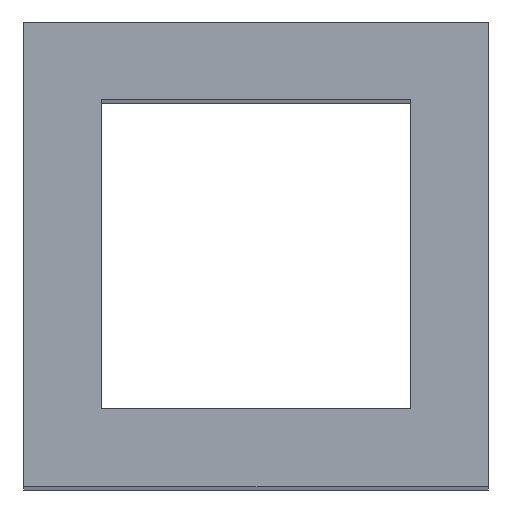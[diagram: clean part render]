
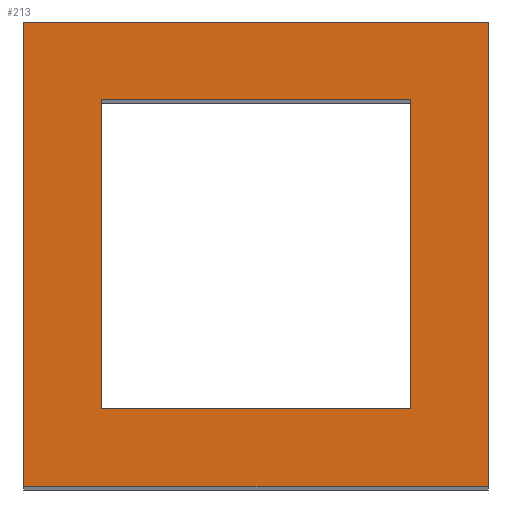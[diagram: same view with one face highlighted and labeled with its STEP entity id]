
A CAD part, top view. The second image highlights one B-rep face of the part: STEP entity #213.
In plain terms, the highlighted planar face has unit normal (0, 0, 1).
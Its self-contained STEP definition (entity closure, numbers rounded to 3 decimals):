
#24 = VERTEX_POINT('',#25);
#25 = CARTESIAN_POINT('',(-1.5,265.,89.));
#32 = PLANE('',#33);
#33 = AXIS2_PLACEMENT_3D('',#34,#35,#36);
#34 = CARTESIAN_POINT('',(-1.5,265.,4.));
#35 = DIRECTION('',(1.,0.,-0.));
#36 = DIRECTION('',(0.,0.,1.));
#44 = PLANE('',#45);
#45 = AXIS2_PLACEMENT_3D('',#46,#47,#48);
#46 = CARTESIAN_POINT('',(-1.5,265.,4.));
#47 = DIRECTION('',(-0.,1.,0.));
#48 = DIRECTION('',(0.,0.,1.));
#85 = VERTEX_POINT('',#86);
#86 = CARTESIAN_POINT('',(-1.5,283.,89.));
#100 = PLANE('',#101);
#101 = AXIS2_PLACEMENT_3D('',#102,#103,#104);
#102 = CARTESIAN_POINT('',(-1.5,283.,4.));
#103 = DIRECTION('',(-0.,1.,0.));
#104 = DIRECTION('',(0.,0.,1.));
#112 = EDGE_CURVE('',#24,#85,#113,.T.);
#113 = SURFACE_CURVE('',#114,(#118,#125),.PCURVE_S1.);
#114 = LINE('',#115,#116);
#115 = CARTESIAN_POINT('',(-1.5,265.,89.));
#116 = VECTOR('',#117,1.);
#117 = DIRECTION('',(-0.,1.,0.));
#118 = PCURVE('',#32,#119);
#119 = DEFINITIONAL_REPRESENTATION('',(#120),#124);
#120 = LINE('',#121,#122);
#121 = CARTESIAN_POINT('',(85.,0.));
#122 = VECTOR('',#123,1.);
#123 = DIRECTION('',(0.,-1.));
#124 = ( GEOMETRIC_REPRESENTATION_CONTEXT(2) 
PARAMETRIC_REPRESENTATION_CONTEXT() REPRESENTATION_CONTEXT('2D SPACE',''
  ) );
#125 = PCURVE('',#126,#131);
#126 = PLANE('',#127);
#127 = AXIS2_PLACEMENT_3D('',#128,#129,#130);
#128 = CARTESIAN_POINT('',(-1.5,265.,89.));
#129 = DIRECTION('',(0.,0.,1.));
#130 = DIRECTION('',(1.,0.,-0.));
#131 = DEFINITIONAL_REPRESENTATION('',(#132),#136);
#132 = LINE('',#133,#134);
#133 = CARTESIAN_POINT('',(0.,0.));
#134 = VECTOR('',#135,1.);
#135 = DIRECTION('',(0.,1.));
#136 = ( GEOMETRIC_REPRESENTATION_CONTEXT(2) 
PARAMETRIC_REPRESENTATION_CONTEXT() REPRESENTATION_CONTEXT('2D SPACE',''
  ) );
#165 = EDGE_CURVE('',#24,#166,#168,.T.);
#166 = VERTEX_POINT('',#167);
#167 = CARTESIAN_POINT('',(16.5,265.,89.));
#168 = SURFACE_CURVE('',#169,(#173,#180),.PCURVE_S1.);
#169 = LINE('',#170,#171);
#170 = CARTESIAN_POINT('',(-1.5,265.,89.));
#171 = VECTOR('',#172,1.);
#172 = DIRECTION('',(1.,0.,-0.));
#173 = PCURVE('',#44,#174);
#174 = DEFINITIONAL_REPRESENTATION('',(#175),#179);
#175 = LINE('',#176,#177);
#176 = CARTESIAN_POINT('',(85.,0.));
#177 = VECTOR('',#178,1.);
#178 = DIRECTION('',(0.,1.));
#179 = ( GEOMETRIC_REPRESENTATION_CONTEXT(2) 
PARAMETRIC_REPRESENTATION_CONTEXT() REPRESENTATION_CONTEXT('2D SPACE',''
  ) );
#180 = PCURVE('',#126,#181);
#181 = DEFINITIONAL_REPRESENTATION('',(#182),#186);
#182 = LINE('',#183,#184);
#183 = CARTESIAN_POINT('',(0.,0.));
#184 = VECTOR('',#185,1.);
#185 = DIRECTION('',(1.,0.));
#186 = ( GEOMETRIC_REPRESENTATION_CONTEXT(2) 
PARAMETRIC_REPRESENTATION_CONTEXT() REPRESENTATION_CONTEXT('2D SPACE',''
  ) );
#202 = PLANE('',#203);
#203 = AXIS2_PLACEMENT_3D('',#204,#205,#206);
#204 = CARTESIAN_POINT('',(16.5,265.,4.));
#205 = DIRECTION('',(1.,0.,-0.));
#206 = DIRECTION('',(0.,0.,1.));
#213 = ADVANCED_FACE('',(#214,#262),#126,.T.);
#214 = FACE_BOUND('',#215,.T.);
#215 = EDGE_LOOP('',(#216,#217,#218,#241));
#216 = ORIENTED_EDGE('',*,*,#112,.F.);
#217 = ORIENTED_EDGE('',*,*,#165,.T.);
#218 = ORIENTED_EDGE('',*,*,#219,.T.);
#219 = EDGE_CURVE('',#166,#220,#222,.T.);
#220 = VERTEX_POINT('',#221);
#221 = CARTESIAN_POINT('',(16.5,283.,89.));
#222 = SURFACE_CURVE('',#223,(#227,#234),.PCURVE_S1.);
#223 = LINE('',#224,#225);
#224 = CARTESIAN_POINT('',(16.5,265.,89.));
#225 = VECTOR('',#226,1.);
#226 = DIRECTION('',(-0.,1.,0.));
#227 = PCURVE('',#126,#228);
#228 = DEFINITIONAL_REPRESENTATION('',(#229),#233);
#229 = LINE('',#230,#231);
#230 = CARTESIAN_POINT('',(18.,0.));
#231 = VECTOR('',#232,1.);
#232 = DIRECTION('',(0.,1.));
#233 = ( GEOMETRIC_REPRESENTATION_CONTEXT(2) 
PARAMETRIC_REPRESENTATION_CONTEXT() REPRESENTATION_CONTEXT('2D SPACE',''
  ) );
#234 = PCURVE('',#202,#235);
#235 = DEFINITIONAL_REPRESENTATION('',(#236),#240);
#236 = LINE('',#237,#238);
#237 = CARTESIAN_POINT('',(85.,0.));
#238 = VECTOR('',#239,1.);
#239 = DIRECTION('',(0.,-1.));
#240 = ( GEOMETRIC_REPRESENTATION_CONTEXT(2) 
PARAMETRIC_REPRESENTATION_CONTEXT() REPRESENTATION_CONTEXT('2D SPACE',''
  ) );
#241 = ORIENTED_EDGE('',*,*,#242,.F.);
#242 = EDGE_CURVE('',#85,#220,#243,.T.);
#243 = SURFACE_CURVE('',#244,(#248,#255),.PCURVE_S1.);
#244 = LINE('',#245,#246);
#245 = CARTESIAN_POINT('',(-1.5,283.,89.));
#246 = VECTOR('',#247,1.);
#247 = DIRECTION('',(1.,0.,-0.));
#248 = PCURVE('',#126,#249);
#249 = DEFINITIONAL_REPRESENTATION('',(#250),#254);
#250 = LINE('',#251,#252);
#251 = CARTESIAN_POINT('',(0.,18.));
#252 = VECTOR('',#253,1.);
#253 = DIRECTION('',(1.,0.));
#254 = ( GEOMETRIC_REPRESENTATION_CONTEXT(2) 
PARAMETRIC_REPRESENTATION_CONTEXT() REPRESENTATION_CONTEXT('2D SPACE',''
  ) );
#255 = PCURVE('',#100,#256);
#256 = DEFINITIONAL_REPRESENTATION('',(#257),#261);
#257 = LINE('',#258,#259);
#258 = CARTESIAN_POINT('',(85.,0.));
#259 = VECTOR('',#260,1.);
#260 = DIRECTION('',(0.,1.));
#261 = ( GEOMETRIC_REPRESENTATION_CONTEXT(2) 
PARAMETRIC_REPRESENTATION_CONTEXT() REPRESENTATION_CONTEXT('2D SPACE',''
  ) );
#262 = FACE_BOUND('',#263,.T.);
#263 = EDGE_LOOP('',(#264,#292,#318,#344));
#264 = ORIENTED_EDGE('',*,*,#265,.T.);
#265 = EDGE_CURVE('',#266,#268,#270,.T.);
#266 = VERTEX_POINT('',#267);
#267 = CARTESIAN_POINT('',(13.5,268.,89.));
#268 = VERTEX_POINT('',#269);
#269 = CARTESIAN_POINT('',(1.5,268.,89.));
#270 = SURFACE_CURVE('',#271,(#275,#281),.PCURVE_S1.);
#271 = LINE('',#272,#273);
#272 = CARTESIAN_POINT('',(0.,268.,89.));
#273 = VECTOR('',#274,1.);
#274 = DIRECTION('',(-1.,-0.,0.));
#275 = PCURVE('',#126,#276);
#276 = DEFINITIONAL_REPRESENTATION('',(#277),#280);
#277 = B_SPLINE_CURVE_WITH_KNOTS('',1,(#278,#279),.UNSPECIFIED.,.F.,.F.,
  (2,2),(-13.5,-1.5),.PIECEWISE_BEZIER_KNOTS.);
#278 = CARTESIAN_POINT('',(15.,3.));
#279 = CARTESIAN_POINT('',(3.,3.));
#280 = ( GEOMETRIC_REPRESENTATION_CONTEXT(2) 
PARAMETRIC_REPRESENTATION_CONTEXT() REPRESENTATION_CONTEXT('2D SPACE',''
  ) );
#281 = PCURVE('',#282,#287);
#282 = PLANE('',#283);
#283 = AXIS2_PLACEMENT_3D('',#284,#285,#286);
#284 = CARTESIAN_POINT('',(1.5,268.,3.));
#285 = DIRECTION('',(-0.,1.,0.));
#286 = DIRECTION('',(0.,0.,1.));
#287 = DEFINITIONAL_REPRESENTATION('',(#288),#291);
#288 = B_SPLINE_CURVE_WITH_KNOTS('',1,(#289,#290),.UNSPECIFIED.,.F.,.F.,
  (2,2),(-13.5,-1.5),.PIECEWISE_BEZIER_KNOTS.);
#289 = CARTESIAN_POINT('',(86.,12.));
#290 = CARTESIAN_POINT('',(86.,0.));
#291 = ( GEOMETRIC_REPRESENTATION_CONTEXT(2) 
PARAMETRIC_REPRESENTATION_CONTEXT() REPRESENTATION_CONTEXT('2D SPACE',''
  ) );
#292 = ORIENTED_EDGE('',*,*,#293,.T.);
#293 = EDGE_CURVE('',#268,#294,#296,.T.);
#294 = VERTEX_POINT('',#295);
#295 = CARTESIAN_POINT('',(1.5,280.,89.));
#296 = SURFACE_CURVE('',#297,(#301,#307),.PCURVE_S1.);
#297 = LINE('',#298,#299);
#298 = CARTESIAN_POINT('',(1.5,266.5,89.));
#299 = VECTOR('',#300,1.);
#300 = DIRECTION('',(-0.,1.,0.));
#301 = PCURVE('',#126,#302);
#302 = DEFINITIONAL_REPRESENTATION('',(#303),#306);
#303 = B_SPLINE_CURVE_WITH_KNOTS('',1,(#304,#305),.UNSPECIFIED.,.F.,.F.,
  (2,2),(1.5,13.5),.PIECEWISE_BEZIER_KNOTS.);
#304 = CARTESIAN_POINT('',(3.,3.));
#305 = CARTESIAN_POINT('',(3.,15.));
#306 = ( GEOMETRIC_REPRESENTATION_CONTEXT(2) 
PARAMETRIC_REPRESENTATION_CONTEXT() REPRESENTATION_CONTEXT('2D SPACE',''
  ) );
#307 = PCURVE('',#308,#313);
#308 = PLANE('',#309);
#309 = AXIS2_PLACEMENT_3D('',#310,#311,#312);
#310 = CARTESIAN_POINT('',(1.5,268.,3.));
#311 = DIRECTION('',(1.,0.,-0.));
#312 = DIRECTION('',(0.,0.,1.));
#313 = DEFINITIONAL_REPRESENTATION('',(#314),#317);
#314 = B_SPLINE_CURVE_WITH_KNOTS('',1,(#315,#316),.UNSPECIFIED.,.F.,.F.,
  (2,2),(1.5,13.5),.PIECEWISE_BEZIER_KNOTS.);
#315 = CARTESIAN_POINT('',(86.,0.));
#316 = CARTESIAN_POINT('',(86.,-12.));
#317 = ( GEOMETRIC_REPRESENTATION_CONTEXT(2) 
PARAMETRIC_REPRESENTATION_CONTEXT() REPRESENTATION_CONTEXT('2D SPACE',''
  ) );
#318 = ORIENTED_EDGE('',*,*,#319,.F.);
#319 = EDGE_CURVE('',#320,#294,#322,.T.);
#320 = VERTEX_POINT('',#321);
#321 = CARTESIAN_POINT('',(13.5,280.,89.));
#322 = SURFACE_CURVE('',#323,(#327,#333),.PCURVE_S1.);
#323 = LINE('',#324,#325);
#324 = CARTESIAN_POINT('',(0.,280.,89.));
#325 = VECTOR('',#326,1.);
#326 = DIRECTION('',(-1.,-0.,0.));
#327 = PCURVE('',#126,#328);
#328 = DEFINITIONAL_REPRESENTATION('',(#329),#332);
#329 = B_SPLINE_CURVE_WITH_KNOTS('',1,(#330,#331),.UNSPECIFIED.,.F.,.F.,
  (2,2),(-13.5,-1.5),.PIECEWISE_BEZIER_KNOTS.);
#330 = CARTESIAN_POINT('',(15.,15.));
#331 = CARTESIAN_POINT('',(3.,15.));
#332 = ( GEOMETRIC_REPRESENTATION_CONTEXT(2) 
PARAMETRIC_REPRESENTATION_CONTEXT() REPRESENTATION_CONTEXT('2D SPACE',''
  ) );
#333 = PCURVE('',#334,#339);
#334 = PLANE('',#335);
#335 = AXIS2_PLACEMENT_3D('',#336,#337,#338);
#336 = CARTESIAN_POINT('',(1.5,280.,3.));
#337 = DIRECTION('',(-0.,1.,0.));
#338 = DIRECTION('',(0.,0.,1.));
#339 = DEFINITIONAL_REPRESENTATION('',(#340),#343);
#340 = B_SPLINE_CURVE_WITH_KNOTS('',1,(#341,#342),.UNSPECIFIED.,.F.,.F.,
  (2,2),(-13.5,-1.5),.PIECEWISE_BEZIER_KNOTS.);
#341 = CARTESIAN_POINT('',(86.,12.));
#342 = CARTESIAN_POINT('',(86.,0.));
#343 = ( GEOMETRIC_REPRESENTATION_CONTEXT(2) 
PARAMETRIC_REPRESENTATION_CONTEXT() REPRESENTATION_CONTEXT('2D SPACE',''
  ) );
#344 = ORIENTED_EDGE('',*,*,#345,.F.);
#345 = EDGE_CURVE('',#266,#320,#346,.T.);
#346 = SURFACE_CURVE('',#347,(#351,#357),.PCURVE_S1.);
#347 = LINE('',#348,#349);
#348 = CARTESIAN_POINT('',(13.5,266.5,89.));
#349 = VECTOR('',#350,1.);
#350 = DIRECTION('',(-0.,1.,0.));
#351 = PCURVE('',#126,#352);
#352 = DEFINITIONAL_REPRESENTATION('',(#353),#356);
#353 = B_SPLINE_CURVE_WITH_KNOTS('',1,(#354,#355),.UNSPECIFIED.,.F.,.F.,
  (2,2),(1.5,13.5),.PIECEWISE_BEZIER_KNOTS.);
#354 = CARTESIAN_POINT('',(15.,3.));
#355 = CARTESIAN_POINT('',(15.,15.));
#356 = ( GEOMETRIC_REPRESENTATION_CONTEXT(2) 
PARAMETRIC_REPRESENTATION_CONTEXT() REPRESENTATION_CONTEXT('2D SPACE',''
  ) );
#357 = PCURVE('',#358,#363);
#358 = PLANE('',#359);
#359 = AXIS2_PLACEMENT_3D('',#360,#361,#362);
#360 = CARTESIAN_POINT('',(13.5,268.,3.));
#361 = DIRECTION('',(1.,0.,-0.));
#362 = DIRECTION('',(0.,0.,1.));
#363 = DEFINITIONAL_REPRESENTATION('',(#364),#367);
#364 = B_SPLINE_CURVE_WITH_KNOTS('',1,(#365,#366),.UNSPECIFIED.,.F.,.F.,
  (2,2),(1.5,13.5),.PIECEWISE_BEZIER_KNOTS.);
#365 = CARTESIAN_POINT('',(86.,0.));
#366 = CARTESIAN_POINT('',(86.,-12.));
#367 = ( GEOMETRIC_REPRESENTATION_CONTEXT(2) 
PARAMETRIC_REPRESENTATION_CONTEXT() REPRESENTATION_CONTEXT('2D SPACE',''
  ) );
